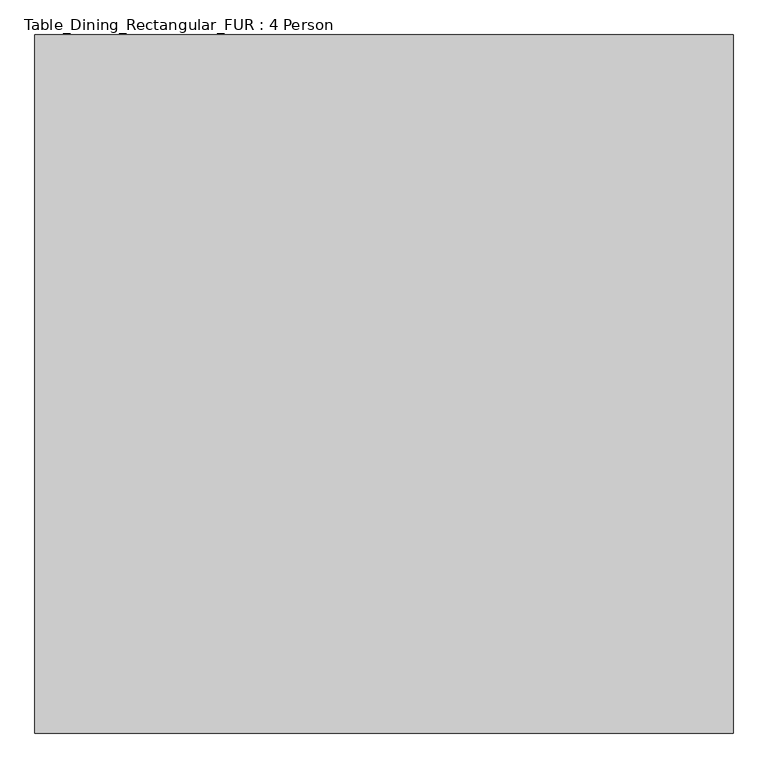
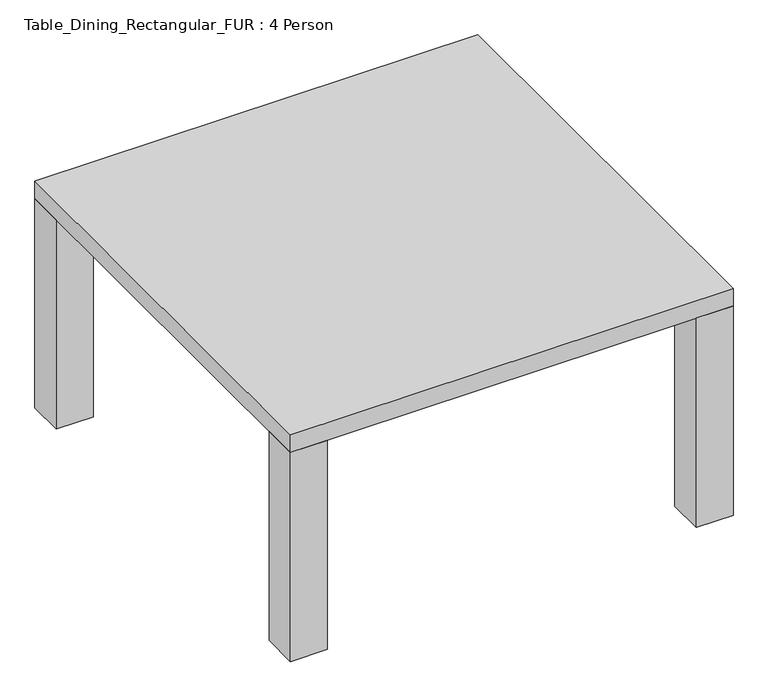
"""IFC4 building model written with IfcOpenShell, lengths in millimetres: furniture geometry, Table_Dining_Rectangular_FUR : 4 Person."""

from ifc_helpers import new_model, si_unit, frame, origin, origin_with_axes, place, context, project, spatial, polyline, outline, extrude, source, transform, mapped, element, save


def table_dining_rectangular_fur_4_person_9b3b3c82(model_context):
    return source(origin(), model_context, "Body", "SweptSolid", [
        extrude(outline(polyline([(-500.0, -600.0), (-600.0, -600.0), (-600.0, -500.0), (-500.0, -500.0), (-500.0, -600.0)])), origin_with_axes(), (0.0, 0.0, 1.0), 600.0),
        extrude(outline(polyline([(-500.0, 600.0), (-500.0, 500.0), (-600.0, 500.0), (-600.0, 600.0), (-500.0, 600.0)])), origin_with_axes(), (0.0, 0.0, 1.0), 600.0),
        extrude(outline(polyline([(500.0, -600.0), (500.0, -500.0), (600.0, -500.0), (600.0, -600.0), (500.0, -600.0)])), origin_with_axes(), (0.0, 0.0, 1.0), 600.0),
        extrude(outline(polyline([(500.0, 600.0), (600.0, 600.0), (600.0, 500.0), (500.0, 500.0), (500.0, 600.0)])), origin_with_axes(), (0.0, 0.0, 1.0), 600.0),
        extrude(outline(polyline([(600.0, 600.0), (600.0, -600.0), (-600.0, -600.0), (-600.0, 600.0), (600.0, 600.0)])), frame((0.0, 0.0, 600.0), z_axis=(0.0, 0.0, 1.0), x_axis=(1.0, 0.0, 0.0)), (0.0, 0.0, 1.0), 50.0),
    ])


if __name__ == "__main__":
    model = new_model("IFC4")
    model_context = context("Model", 3, world=origin())
    ifc_project = project(units=[si_unit("LENGTHUNIT", "METRE", prefix="MILLI")], contexts=[model_context])
    site = spatial("IfcSite", under=ifc_project)
    building = spatial("IfcBuilding", under=site)
    placement = place(None, origin())
    table_dining_rectangular_fur_4_person_shape = table_dining_rectangular_fur_4_person_9b3b3c82(model_context)
    element("IfcFurniture", 1, ObjectType="Table_Dining_Rectangular_FUR : 4 Person", at=placement, inside=building, context=model_context, shape_type="MappedRepresentation", body=[
        mapped(table_dining_rectangular_fur_4_person_shape, transform((0.0, 0.0, 0.0), x_axis=(1.0, 0.0, 0.0), y_axis=(0.0, 1.0, 0.0), z_axis=(0.0, 0.0, 1.0))),
    ])
    save(model, "model.ifc")
